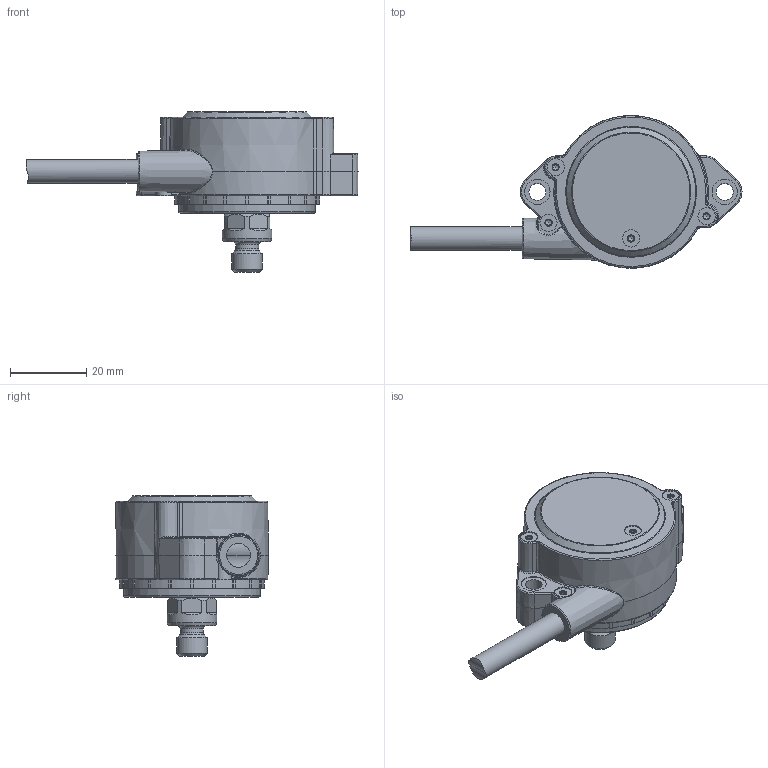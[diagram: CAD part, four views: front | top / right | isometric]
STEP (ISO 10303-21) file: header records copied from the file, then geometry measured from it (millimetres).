
FILE_DESCRIPTION(/* description */ ('Unknown'),/* implementation_level */ '2;1');
FILE_NAME(/* name */ 'EB360X-XX-X-TM8A.XXXXX.XXXXXX',/* time_stamp */ '2023-09-19T15:29:43+02:00',/* author */ ('Unknown'),/* organization */ ('Baumer'),/* preprocessor_version */ 'ST-DEVELOPER v16.7',/* originating_system */ 'Solid Edge',/* authorisation */ 'Unknown');
FILE_SCHEMA (('AUTOMOTIVE_DESIGN {1 0 10303 214 3 1 1}'));
Length unit declared in the file: millimetre
Products named in the file (3): EB360X-XX-X-TM8A.XXXXX.XXXXXX; EB360; TM8A
Assembly tree (2 placements, depth 2):
  EB360X-XX-X-TM8A.XXXXX.XXXXXX
    EB360
    TM8A
Bounding box: 86.81 x 39.92 x 42 mm (x, y, z)
Volume: 36633.5 mm3; surface area: 9125.9 mm2
Topology: 2 solids, 2 shells, 547 faces, 1474 edges, 938 vertices
Faces by surface type: plane 153, cylinder 148, bspline 118, cone 80, torus 39, sphere 9
Full cylindrical faces by diameter (mm): 1.88 x4, 4.4 x2, 4.5 x4, 6 x1, 6.2 x1, 6.6 x4, 8 x1, 10 x1, 13 x1
Entity records: 23719 total; most frequent: CARTESIAN_POINT 7843, ORIENTED_EDGE 2798, DIRECTION 2089, EDGE_CURVE 1399, VERTEX_POINT 918, AXIS2_PLACEMENT_3D 867, FACE_BOUND 611, EDGE_LOOP 607
